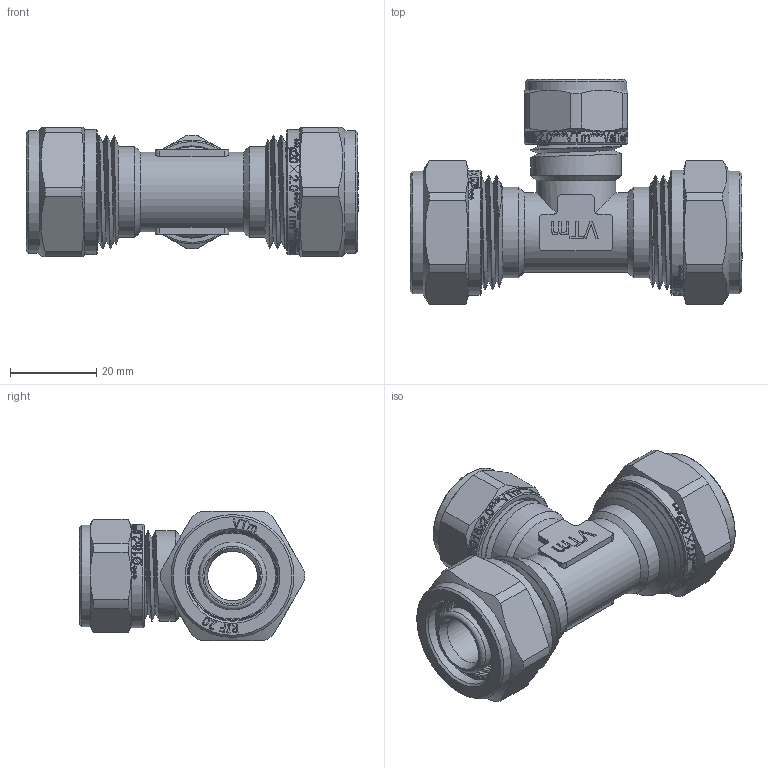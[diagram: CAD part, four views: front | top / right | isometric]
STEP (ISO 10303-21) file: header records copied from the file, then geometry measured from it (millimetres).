
FILE_DESCRIPTION(/* description */ (''),/* implementation_level */ '2;1');
FILE_NAME(/* name */ 'E:\Артём\00000\Работа удаленка\Обжимные фитинги\VTm.331.N.201620.stp',/* time_stamp */ '2020-06-30T12:58:35+03:00',/* author */ ('BeN_GaN'),/* organization */ (''),/* preprocessor_version */ 'ST-DEVELOPER v18',/* originating_system */ 'Autodesk Inventor 2020',/* authorisation */ '');
FILE_SCHEMA (('AUTOMOTIVE_DESIGN { 1 0 10303 214 3 1 1 }'));
Length unit declared in the file: millimetre
Products named in the file (1): VTm.331.N.201620
Bounding box: 77 x 52.22 x 30 mm (x, y, z)
Volume: 32549.2 mm3; surface area: 24274.9 mm2
Topology: 1 solids, 3 shells, 1983 faces, 5568 edges, 3750 vertices
Faces by surface type: bspline 1060, plane 564, cylinder 239, torus 69, cone 51
Full cylindrical faces by diameter (mm): 8 x1, 9.4 x2, 11.5 x1, 11.75 x4, 13.4 x4, 15.75 x8, 16 x4, 16.2 x1, 16.6 x5, 17 x1, 17.4 x3, 18.5 x2, 18.6 x2, 19.986 x8, 20.2 x2, 20.728 x10, 21 x5, 22.8 x6, 23.201 x2, 23.5 x1, 24 x1, 24.2 x4, 26.4 x4, 28.5 x2, 29 x2
Entity records: 85883 total; most frequent: CARTESIAN_POINT 41341, ORIENTED_EDGE 11144, DIRECTION 6026, EDGE_CURVE 5572, VERTEX_POINT 3754, LINE 2380, VECTOR 2380, B_SPLINE_CURVE_WITH_KNOTS 2245
